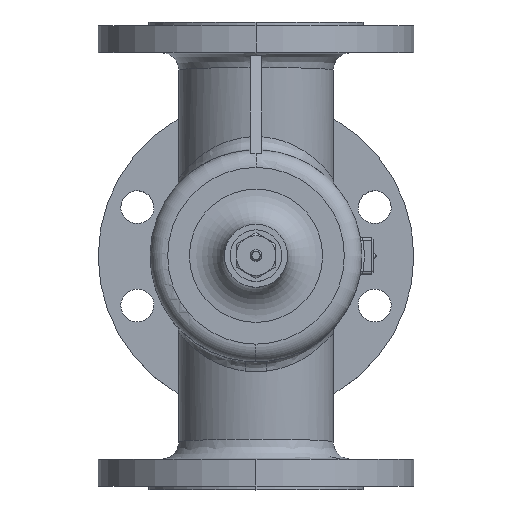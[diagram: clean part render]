
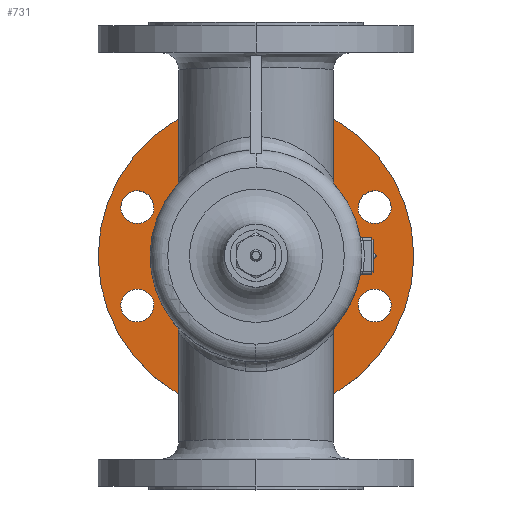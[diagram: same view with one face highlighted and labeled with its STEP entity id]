
A CAD part, top view. The second image highlights one B-rep face of the part: STEP entity #731.
In plain terms, the highlighted planar face has unit normal (0, 0, 1).
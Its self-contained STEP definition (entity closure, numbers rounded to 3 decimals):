
#100=PLANE('',#3574);
#178=FACE_BOUND('',#1148,.T.);
#179=FACE_BOUND('',#1149,.T.);
#180=FACE_BOUND('',#1150,.T.);
#181=FACE_BOUND('',#1151,.T.);
#182=FACE_BOUND('',#1152,.T.);
#183=FACE_BOUND('',#1153,.T.);
#184=FACE_BOUND('',#1154,.T.);
#185=FACE_BOUND('',#1155,.T.);
#186=FACE_BOUND('',#1156,.T.);
#187=FACE_BOUND('',#1157,.T.);
#731=ADVANCED_FACE('',(#178,#179,#180,#181,#182,#183,#184,#185,#186,#187),
#100,.T.);
#1148=EDGE_LOOP('',(#1880,#1881,#1882));
#1149=EDGE_LOOP('',(#1883,#1884,#1885));
#1150=EDGE_LOOP('',(#1886,#1887));
#1151=EDGE_LOOP('',(#1888,#1889));
#1152=EDGE_LOOP('',(#1890,#1891,#1892));
#1153=EDGE_LOOP('',(#1893,#1894,#1895));
#1154=EDGE_LOOP('',(#1896,#1897));
#1155=EDGE_LOOP('',(#1898,#1899));
#1156=EDGE_LOOP('',(#1900,#1901));
#1157=EDGE_LOOP('',(#1902,#1903));
#1880=ORIENTED_EDGE('',*,*,#2886,.F.);
#1881=ORIENTED_EDGE('',*,*,#2887,.T.);
#1882=ORIENTED_EDGE('',*,*,#2888,.T.);
#1883=ORIENTED_EDGE('',*,*,#2889,.F.);
#1884=ORIENTED_EDGE('',*,*,#2890,.T.);
#1885=ORIENTED_EDGE('',*,*,#2891,.T.);
#1886=ORIENTED_EDGE('',*,*,#2892,.F.);
#1887=ORIENTED_EDGE('',*,*,#2893,.T.);
#1888=ORIENTED_EDGE('',*,*,#2894,.F.);
#1889=ORIENTED_EDGE('',*,*,#2895,.T.);
#1890=ORIENTED_EDGE('',*,*,#2896,.F.);
#1891=ORIENTED_EDGE('',*,*,#2897,.T.);
#1892=ORIENTED_EDGE('',*,*,#2898,.T.);
#1893=ORIENTED_EDGE('',*,*,#2899,.F.);
#1894=ORIENTED_EDGE('',*,*,#2900,.T.);
#1895=ORIENTED_EDGE('',*,*,#2901,.T.);
#1896=ORIENTED_EDGE('',*,*,#2902,.F.);
#1897=ORIENTED_EDGE('',*,*,#2903,.T.);
#1898=ORIENTED_EDGE('',*,*,#2904,.F.);
#1899=ORIENTED_EDGE('',*,*,#2905,.T.);
#1900=ORIENTED_EDGE('',*,*,#2906,.T.);
#1901=ORIENTED_EDGE('',*,*,#2907,.T.);
#1902=ORIENTED_EDGE('',*,*,#2623,.F.);
#1903=ORIENTED_EDGE('',*,*,#2598,.F.);
#2286=VERTEX_POINT('',#5044);
#2288=VERTEX_POINT('',#5047);
#2468=VERTEX_POINT('',#8650);
#2469=VERTEX_POINT('',#8651);
#2470=VERTEX_POINT('',#8653);
#2471=VERTEX_POINT('',#8656);
#2472=VERTEX_POINT('',#8657);
#2473=VERTEX_POINT('',#8659);
#2474=VERTEX_POINT('',#8662);
#2475=VERTEX_POINT('',#8663);
#2476=VERTEX_POINT('',#8666);
#2477=VERTEX_POINT('',#8667);
#2478=VERTEX_POINT('',#8670);
#2479=VERTEX_POINT('',#8671);
#2480=VERTEX_POINT('',#8673);
#2481=VERTEX_POINT('',#8676);
#2482=VERTEX_POINT('',#8677);
#2483=VERTEX_POINT('',#8679);
#2484=VERTEX_POINT('',#8682);
#2485=VERTEX_POINT('',#8683);
#2486=VERTEX_POINT('',#8686);
#2487=VERTEX_POINT('',#8687);
#2488=VERTEX_POINT('',#8690);
#2489=VERTEX_POINT('',#8691);
#2598=EDGE_CURVE('',#2286,#2288,#3039,.T.);
#2623=EDGE_CURVE('',#2288,#2286,#3054,.T.);
#2886=EDGE_CURVE('',#2468,#2469,#3199,.T.);
#2887=EDGE_CURVE('',#2468,#2470,#3200,.T.);
#2888=EDGE_CURVE('',#2470,#2469,#3201,.T.);
#2889=EDGE_CURVE('',#2471,#2472,#3202,.T.);
#2890=EDGE_CURVE('',#2471,#2473,#3203,.T.);
#2891=EDGE_CURVE('',#2473,#2472,#3204,.T.);
#2892=EDGE_CURVE('',#2474,#2475,#3205,.T.);
#2893=EDGE_CURVE('',#2474,#2475,#3206,.T.);
#2894=EDGE_CURVE('',#2476,#2477,#3207,.T.);
#2895=EDGE_CURVE('',#2476,#2477,#3208,.T.);
#2896=EDGE_CURVE('',#2478,#2479,#3209,.T.);
#2897=EDGE_CURVE('',#2478,#2480,#3210,.T.);
#2898=EDGE_CURVE('',#2480,#2479,#3211,.T.);
#2899=EDGE_CURVE('',#2481,#2482,#3212,.T.);
#2900=EDGE_CURVE('',#2481,#2483,#3213,.T.);
#2901=EDGE_CURVE('',#2483,#2482,#3214,.T.);
#2902=EDGE_CURVE('',#2484,#2485,#3215,.T.);
#2903=EDGE_CURVE('',#2484,#2485,#3216,.T.);
#2904=EDGE_CURVE('',#2486,#2487,#3217,.T.);
#2905=EDGE_CURVE('',#2486,#2487,#3218,.T.);
#2906=EDGE_CURVE('',#2488,#2489,#3219,.T.);
#2907=EDGE_CURVE('',#2489,#2488,#3220,.T.);
#3039=CIRCLE('',#3295,75.8);
#3054=CIRCLE('',#3319,75.8);
#3199=CIRCLE('',#3552,14.);
#3200=CIRCLE('',#3553,9.5);
#3201=CIRCLE('',#3554,9.5);
#3202=CIRCLE('',#3555,14.);
#3203=CIRCLE('',#3556,9.5);
#3204=CIRCLE('',#3557,9.5);
#3205=CIRCLE('',#3558,14.);
#3206=CIRCLE('',#3559,9.5);
#3207=CIRCLE('',#3560,14.);
#3208=CIRCLE('',#3561,9.5);
#3209=CIRCLE('',#3562,14.);
#3210=CIRCLE('',#3563,9.5);
#3211=CIRCLE('',#3564,9.5);
#3212=CIRCLE('',#3565,14.);
#3213=CIRCLE('',#3566,9.5);
#3214=CIRCLE('',#3567,9.5);
#3215=CIRCLE('',#3568,14.);
#3216=CIRCLE('',#3569,9.5);
#3217=CIRCLE('',#3570,14.);
#3218=CIRCLE('',#3571,9.5);
#3219=CIRCLE('',#3572,135.);
#3220=CIRCLE('',#3573,135.);
#3295=AXIS2_PLACEMENT_3D('',#5046,#3753,#3754);
#3319=AXIS2_PLACEMENT_3D('',#5113,#3805,#3806);
#3552=AXIS2_PLACEMENT_3D('',#8649,#4348,#4349);
#3553=AXIS2_PLACEMENT_3D('',#8652,#4350,#4351);
#3554=AXIS2_PLACEMENT_3D('',#8654,#4352,#4353);
#3555=AXIS2_PLACEMENT_3D('',#8655,#4354,#4355);
#3556=AXIS2_PLACEMENT_3D('',#8658,#4356,#4357);
#3557=AXIS2_PLACEMENT_3D('',#8660,#4358,#4359);
#3558=AXIS2_PLACEMENT_3D('',#8661,#4360,#4361);
#3559=AXIS2_PLACEMENT_3D('',#8664,#4362,#4363);
#3560=AXIS2_PLACEMENT_3D('',#8665,#4364,#4365);
#3561=AXIS2_PLACEMENT_3D('',#8668,#4366,#4367);
#3562=AXIS2_PLACEMENT_3D('',#8669,#4368,#4369);
#3563=AXIS2_PLACEMENT_3D('',#8672,#4370,#4371);
#3564=AXIS2_PLACEMENT_3D('',#8674,#4372,#4373);
#3565=AXIS2_PLACEMENT_3D('',#8675,#4374,#4375);
#3566=AXIS2_PLACEMENT_3D('',#8678,#4376,#4377);
#3567=AXIS2_PLACEMENT_3D('',#8680,#4378,#4379);
#3568=AXIS2_PLACEMENT_3D('',#8681,#4380,#4381);
#3569=AXIS2_PLACEMENT_3D('',#8684,#4382,#4383);
#3570=AXIS2_PLACEMENT_3D('',#8685,#4384,#4385);
#3571=AXIS2_PLACEMENT_3D('',#8688,#4386,#4387);
#3572=AXIS2_PLACEMENT_3D('',#8689,#4388,#4389);
#3573=AXIS2_PLACEMENT_3D('',#8692,#4390,#4391);
#3574=AXIS2_PLACEMENT_3D('',#8693,#4392,#4393);
#3753=DIRECTION('',(0.,0.,1.));
#3754=DIRECTION('',(0.,-1.,0.));
#3805=DIRECTION('',(0.,0.,1.));
#3806=DIRECTION('',(0.,-1.,0.));
#4348=DIRECTION('',(0.,0.,1.));
#4349=DIRECTION('',(0.,-1.,0.));
#4350=DIRECTION('',(0.,0.,-1.));
#4351=DIRECTION('',(0.,-1.,0.));
#4352=DIRECTION('',(0.,0.,-1.));
#4353=DIRECTION('',(0.,-1.,0.));
#4354=DIRECTION('',(0.,0.,1.));
#4355=DIRECTION('',(0.,-1.,0.));
#4356=DIRECTION('',(0.,0.,-1.));
#4357=DIRECTION('',(0.,-1.,0.));
#4358=DIRECTION('',(0.,0.,-1.));
#4359=DIRECTION('',(0.,-1.,0.));
#4360=DIRECTION('',(0.,0.,1.));
#4361=DIRECTION('',(0.,-1.,0.));
#4362=DIRECTION('',(0.,0.,-1.));
#4363=DIRECTION('',(0.,-1.,0.));
#4364=DIRECTION('',(0.,0.,1.));
#4365=DIRECTION('',(0.,-1.,0.));
#4366=DIRECTION('',(0.,0.,-1.));
#4367=DIRECTION('',(0.,-1.,0.));
#4368=DIRECTION('',(0.,0.,1.));
#4369=DIRECTION('',(0.,-1.,0.));
#4370=DIRECTION('',(0.,0.,-1.));
#4371=DIRECTION('',(0.,-1.,0.));
#4372=DIRECTION('',(0.,0.,-1.));
#4373=DIRECTION('',(0.,-1.,0.));
#4374=DIRECTION('',(0.,0.,1.));
#4375=DIRECTION('',(0.,-1.,0.));
#4376=DIRECTION('',(0.,0.,-1.));
#4377=DIRECTION('',(0.,-1.,0.));
#4378=DIRECTION('',(0.,0.,-1.));
#4379=DIRECTION('',(0.,-1.,0.));
#4380=DIRECTION('',(0.,0.,1.));
#4381=DIRECTION('',(0.,-1.,0.));
#4382=DIRECTION('',(0.,0.,-1.));
#4383=DIRECTION('',(0.,-1.,0.));
#4384=DIRECTION('',(0.,0.,1.));
#4385=DIRECTION('',(0.,-1.,0.));
#4386=DIRECTION('',(0.,0.,-1.));
#4387=DIRECTION('',(0.,-1.,0.));
#4388=DIRECTION('',(0.,0.,1.));
#4389=DIRECTION('',(0.,-1.,0.));
#4390=DIRECTION('',(0.,0.,1.));
#4391=DIRECTION('',(0.,-1.,0.));
#4392=DIRECTION('',(0.,0.,1.));
#4393=DIRECTION('',(0.,-1.,0.));
#5044=CARTESIAN_POINT('',(0.,324.2,-174.));
#5046=CARTESIAN_POINT('',(0.,400.,-174.));
#5047=CARTESIAN_POINT('',(0.,475.8,-174.));
#5113=CARTESIAN_POINT('',(0.,400.,-174.));
#8649=CARTESIAN_POINT('',(42.095,501.627,-174.));
#8650=CARTESIAN_POINT('',(41.715,487.632,-174.));
#8651=CARTESIAN_POINT('',(32.468,491.462,-174.));
#8652=CARTESIAN_POINT('',(40.182,497.007,-174.));
#8653=CARTESIAN_POINT('',(40.182,487.507,-174.));
#8654=CARTESIAN_POINT('',(40.182,497.007,-174.));
#8655=CARTESIAN_POINT('',(-42.095,501.627,-174.));
#8656=CARTESIAN_POINT('',(-32.468,491.462,-174.));
#8657=CARTESIAN_POINT('',(-41.715,487.632,-174.));
#8658=CARTESIAN_POINT('',(-40.182,497.007,-174.));
#8659=CARTESIAN_POINT('',(-40.182,487.507,-174.));
#8660=CARTESIAN_POINT('',(-40.182,497.007,-174.));
#8661=CARTESIAN_POINT('',(-101.627,442.095,-174.));
#8662=CARTESIAN_POINT('',(-87.632,441.715,-174.));
#8663=CARTESIAN_POINT('',(-91.462,432.468,-174.));
#8664=CARTESIAN_POINT('',(-97.007,440.182,-174.));
#8665=CARTESIAN_POINT('',(-101.627,357.905,-174.));
#8666=CARTESIAN_POINT('',(-91.462,367.532,-174.));
#8667=CARTESIAN_POINT('',(-87.632,358.285,-174.));
#8668=CARTESIAN_POINT('',(-97.007,359.818,-174.));
#8669=CARTESIAN_POINT('',(-42.095,298.373,-174.));
#8670=CARTESIAN_POINT('',(-41.715,312.368,-174.));
#8671=CARTESIAN_POINT('',(-32.468,308.538,-174.));
#8672=CARTESIAN_POINT('',(-40.182,302.993,-174.));
#8673=CARTESIAN_POINT('',(-40.182,312.493,-174.));
#8674=CARTESIAN_POINT('',(-40.182,302.993,-174.));
#8675=CARTESIAN_POINT('',(42.095,298.373,-174.));
#8676=CARTESIAN_POINT('',(32.468,308.538,-174.));
#8677=CARTESIAN_POINT('',(41.715,312.368,-174.));
#8678=CARTESIAN_POINT('',(40.182,302.993,-174.));
#8679=CARTESIAN_POINT('',(40.182,312.493,-174.));
#8680=CARTESIAN_POINT('',(40.182,302.993,-174.));
#8681=CARTESIAN_POINT('',(101.627,357.905,-174.));
#8682=CARTESIAN_POINT('',(87.632,358.285,-174.));
#8683=CARTESIAN_POINT('',(91.462,367.532,-174.));
#8684=CARTESIAN_POINT('',(97.007,359.818,-174.));
#8685=CARTESIAN_POINT('',(101.627,442.095,-174.));
#8686=CARTESIAN_POINT('',(91.462,432.468,-174.));
#8687=CARTESIAN_POINT('',(87.632,441.715,-174.));
#8688=CARTESIAN_POINT('',(97.007,440.182,-174.));
#8689=CARTESIAN_POINT('',(0.,400.,-174.));
#8690=CARTESIAN_POINT('',(0.,535.,-174.));
#8691=CARTESIAN_POINT('',(0.,265.,-174.));
#8692=CARTESIAN_POINT('',(0.,400.,-174.));
#8693=CARTESIAN_POINT('',(-125.,525.,-174.));
